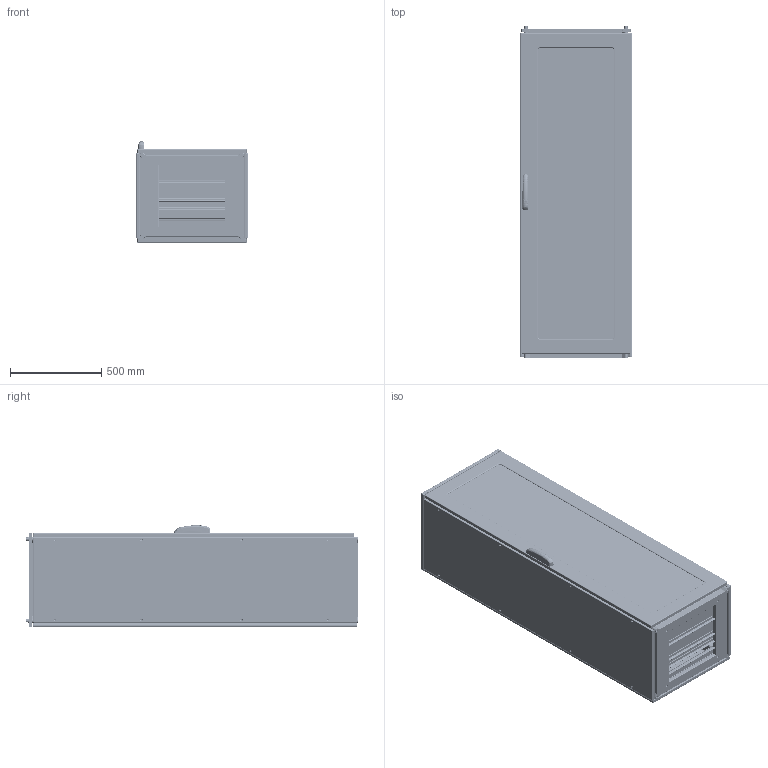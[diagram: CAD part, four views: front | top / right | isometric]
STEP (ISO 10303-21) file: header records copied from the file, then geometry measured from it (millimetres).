
FILE_DESCRIPTION (( 'STEP AP203' ), '1' );
FILE_NAME ('ENUX-061805PVX.STEP', '2021-03-16T12:58:56', ( '' ), ( '' ), 'SwSTEP 2.0', 'SolidWorks 2019', '' );
FILE_SCHEMA (( 'CONFIG_CONTROL_DESIGN' ));
Length unit declared in the file: millimetre
Products named in the file (14): AR_ENUX_Inox_Tegolino_0600x0050; AR_ENUX_Inox_Plexiglass_porte_0600X1800; AR_ENUX_Inox_Rosetta_13x24x2.5_inox; AR_ENUX_Inox_Fianco_0500x1800_DX; AR_ENUX_Inox_Tetto_0600x0500; AR_ENUX_nuova_maniglia_mesan; AR_ENUX_Inox_montaggio_porta_singlola_plexi_0600x1800_ANT_DX; AR_ENUX_Inox_Porta_singola_plexi_0600x1800_ANT; AR_ENUX_Inox_Tegolino_0600x0100; AR_ENUX_Inox_Retro_singolo_0600x1800; ENUX-061805PVX; AR_ENUX_Inox_Struttura_0600x1800x0500; AR_ENUX_Inox_Vite_tetto_inox; AR_ENUX_Inox_Fianco_0500x1800_SX
Assembly tree (21 placements, depth 3):
  ENUX-061805PVX
    AR_ENUX_Inox_Struttura_0600x1800x0500
    AR_ENUX_Inox_Retro_singolo_0600x1800
    AR_ENUX_Inox_montaggio_porta_singlola_plexi_0600x1800_ANT_DX
      AR_ENUX_Inox_Porta_singola_plexi_0600x1800_ANT
      AR_ENUX_Inox_Plexiglass_porte_0600X1800
      AR_ENUX_nuova_maniglia_mesan
    AR_ENUX_Inox_Fianco_0500x1800_SX
    AR_ENUX_Inox_Fianco_0500x1800_DX
    AR_ENUX_Inox_Tetto_0600x0500
    AR_ENUX_Inox_Vite_tetto_inox  x4
    AR_ENUX_Inox_Rosetta_13x24x2.5_inox  x4
    AR_ENUX_Inox_Tegolino_0600x0100  x2
    AR_ENUX_Inox_Tegolino_0600x0050  x2
Bounding box: 612 x 1823 x 557 mm (x, y, z)
Volume: 11836980.9 mm3; surface area: 15052607.8 mm2
Topology: 20 solids, 20 shells, 8058 faces, 22671 edges, 14548 vertices
Faces by surface type: plane 4236, cylinder 2894, bspline 365, torus 283, cone 212, sphere 68
Entity records: 298451 total; most frequent: CARTESIAN_POINT 85466, ORIENTED_EDGE 44112, DIRECTION 42178, EDGE_CURVE 22056, VECTOR 14890, LINE 14890, VERTEX_POINT 14280, AXIS2_PLACEMENT_3D 13644
